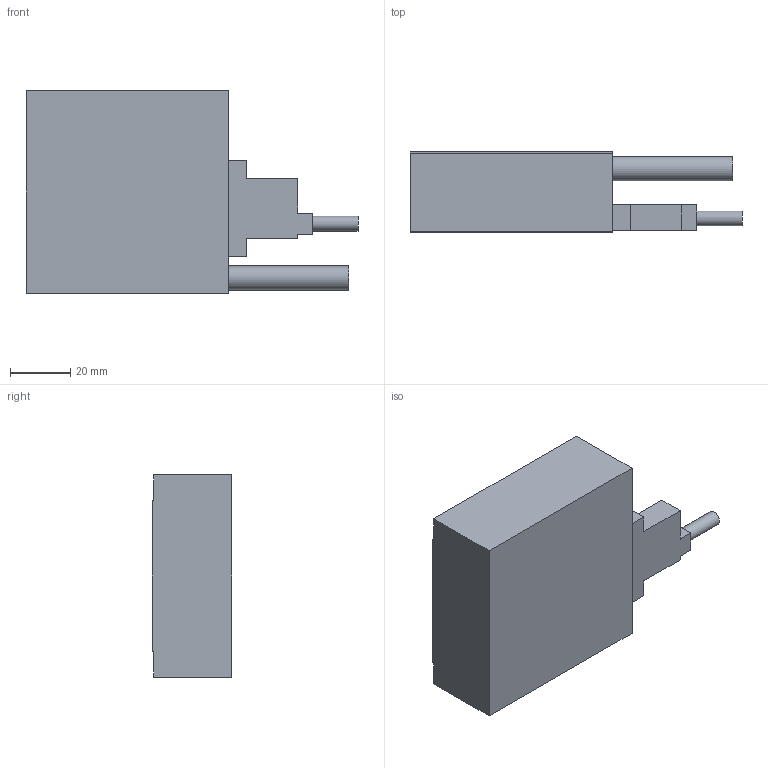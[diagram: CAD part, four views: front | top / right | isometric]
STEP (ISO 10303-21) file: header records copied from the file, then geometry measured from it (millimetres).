
FILE_DESCRIPTION(/* description */ ('STEP AP242 Edition 2','CAx-IF Rec.Pracs.---Representation and Presentation of Product Manufacturing Information (PMI)---4.0---2014-10-13','CAx-IF Rec.Pracs.---3D Tessellated Geometry---0.4---2014-09-14','2;1','CAx-IF Rec.Pracs.---User Defined Attributes---1.5---2016-08-15'),/* implementation_level */ '2;1');
FILE_NAME(/* name */ 'CM10S (3)',/* time_stamp */ '2026-04-13T00:44:35Z',/* author */ (''),/* organization */ (''),/* preprocessor_version */ 'ST-DEVELOPER v20',/* originating_system */ 'ONSHAPE BY PTC INC, 1.213',/* authorisation */ ' ');
FILE_SCHEMA (('AP242_MANAGED_MODEL_BASED_3D_ENGINEERING_MIM_LF { 1 0 10303 442 3 1 4 }'));
Length unit declared in the file: metre
Products named in the file (1): CM10S
Bounding box: 110 x 26.5 x 67 mm (x, y, z)
Volume: 124037.2 mm3; surface area: 20273.9 mm2
Topology: 1 solids, 2 shells, 56 faces, 136 edges, 89 vertices
Faces by surface type: plane 35, cylinder 15, cone 6
Full cylindrical faces by diameter (mm): 2.5 x2, 3.4 x2, 4.2 x4, 4.9 x2, 8 x1
Entity records: 1518 total; most frequent: DIRECTION 256, CARTESIAN_POINT 255, ORIENTED_EDGE 222, EDGE_CURVE 111, AXIS2_PLACEMENT_3D 88, VERTEX_POINT 87, FACE_BOUND 84, LINE 80
